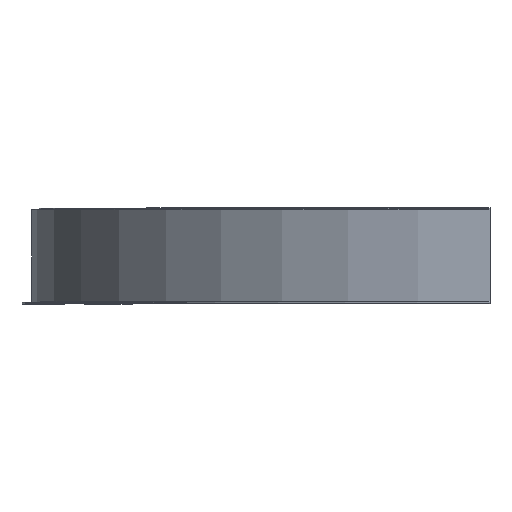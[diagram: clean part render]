
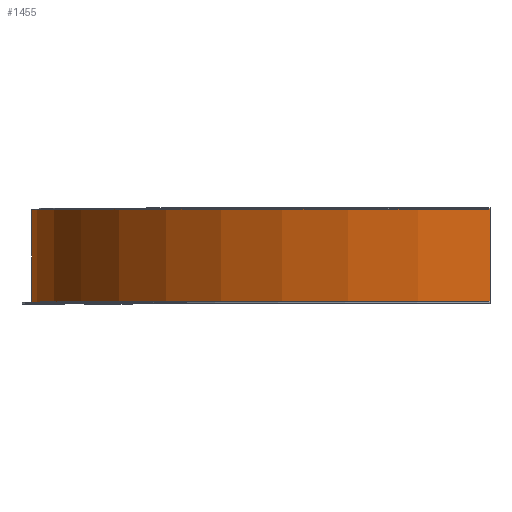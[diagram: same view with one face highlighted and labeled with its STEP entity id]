
A CAD part, top view. The second image highlights one B-rep face of the part: STEP entity #1455.
In plain terms, the highlighted cylindrical face has radius 386 mm (diameter 772 mm), a partial arc.
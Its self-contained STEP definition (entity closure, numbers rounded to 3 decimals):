
#65 = CARTESIAN_POINT ( 'NONE',  ( -23.5, 79.5, 0. ) ) ;
#255 = ORIENTED_EDGE ( 'NONE', *, *, #1348, .F. ) ;
#265 = DIRECTION ( 'NONE',  ( 0., -1., 0. ) ) ;
#360 = DIRECTION ( 'NONE',  ( 0., 0., 1. ) ) ;
#363 = CARTESIAN_POINT ( 'NONE',  ( 362.5, 1.8, 0. ) ) ;
#389 = CARTESIAN_POINT ( 'NONE',  ( 362.5, 1.8, 386. ) ) ;
#491 = DIRECTION ( 'NONE',  ( -1., 0., 0. ) ) ;
#509 = DIRECTION ( 'NONE',  ( -1., 0., 0. ) ) ;
#518 = AXIS2_PLACEMENT_3D ( 'NONE', #1091, #1240, #491 ) ;
#531 = EDGE_CURVE ( 'NONE', #1280, #1189, #1035, .T. ) ;
#603 = VECTOR ( 'NONE', #265, 1000. ) ;
#642 = DIRECTION ( 'NONE',  ( 0., -1., 0. ) ) ;
#731 = VECTOR ( 'NONE', #642, 1000. ) ;
#781 = AXIS2_PLACEMENT_3D ( 'NONE', #957, #1881, #360 ) ;
#839 = CARTESIAN_POINT ( 'NONE',  ( -23.5, 1.8, 0. ) ) ;
#877 = ORIENTED_EDGE ( 'NONE', *, *, #1578, .F. ) ;
#957 = CARTESIAN_POINT ( 'NONE',  ( 362.5, 0., 0. ) ) ;
#1035 = LINE ( 'NONE', #839, #603 ) ;
#1054 = CIRCLE ( 'NONE', #518, 386. ) ;
#1082 = CIRCLE ( 'NONE', #1265, 386. ) ;
#1091 = CARTESIAN_POINT ( 'NONE',  ( 362.5, 79.5, 0. ) ) ;
#1114 = EDGE_LOOP ( 'NONE', ( #1761, #255, #877, #1634 ) ) ;
#1136 = LINE ( 'NONE', #1862, #731 ) ;
#1156 = CYLINDRICAL_SURFACE ( 'NONE', #781, 386. ) ;
#1189 = VERTEX_POINT ( 'NONE', #1504 ) ;
#1240 = DIRECTION ( 'NONE',  ( 0., 1., 0. ) ) ;
#1265 = AXIS2_PLACEMENT_3D ( 'NONE', #363, #1868, #509 ) ;
#1280 = VERTEX_POINT ( 'NONE', #65 ) ;
#1348 = EDGE_CURVE ( 'NONE', #1597, #1729, #1136, .T. ) ;
#1370 = EDGE_CURVE ( 'NONE', #1189, #1729, #1082, .T. ) ;
#1455 = ADVANCED_FACE ( 'NONE', ( #1655 ), #1156, .T. ) ;
#1504 = CARTESIAN_POINT ( 'NONE',  ( -23.5, 1.8, 0. ) ) ;
#1578 = EDGE_CURVE ( 'NONE', #1280, #1597, #1054, .T. ) ;
#1597 = VERTEX_POINT ( 'NONE', #1673 ) ;
#1634 = ORIENTED_EDGE ( 'NONE', *, *, #531, .T. ) ;
#1655 = FACE_OUTER_BOUND ( 'NONE', #1114, .T. ) ;
#1673 = CARTESIAN_POINT ( 'NONE',  ( 362.5, 79.5, 386. ) ) ;
#1729 = VERTEX_POINT ( 'NONE', #389 ) ;
#1761 = ORIENTED_EDGE ( 'NONE', *, *, #1370, .T. ) ;
#1862 = CARTESIAN_POINT ( 'NONE',  ( 362.5, 1.8, 386. ) ) ;
#1868 = DIRECTION ( 'NONE',  ( 0., 1., 0. ) ) ;
#1881 = DIRECTION ( 'NONE',  ( 0., 1., 0. ) ) ;
